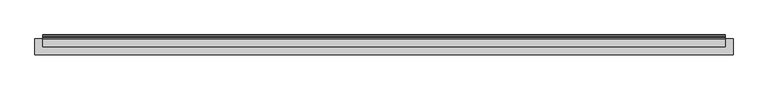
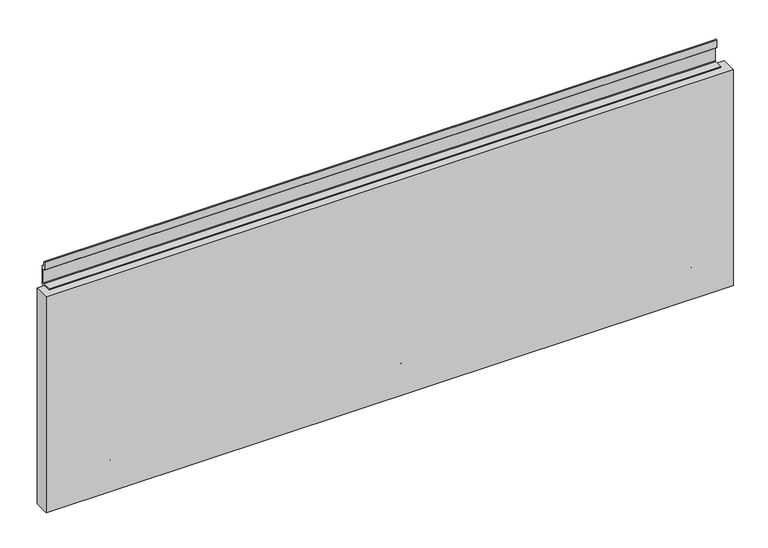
"""IFC4 building model written with IfcOpenShell, lengths in millimetres: furniture geometry, Geiger_GeigerOneCasegoods_WallTileAcceptsTileAboveFabric : Fabric 45Wx 1.25Dx 15H."""

from ifc_helpers import new_model, si_unit, point, frame, frame_2d, origin, origin_with_axes, place, context, project, spatial, polyline, circle_curve, trimmed, segment, composite_curve, outline, extrude, source, transform, mapped, element, save


def furniture_c91bc20d(model_context):
    return source(origin(), model_context, "Body", "SweptSolid", [
        extrude(outline(composite_curve([segment(polyline([(-3.5052, 46.3366), (-2.6924, 45.5238), (-0.8128, 45.5238), (0.0, 44.7364), (0.0, 31.3197095)]), True, "CONTINUOUS"), segment(trimmed(circle_curve(frame_2d((-0.7973236, 31.3197095)), 0.7973236), [point((0.0, 31.3197095))], [point((-1.3611166, 30.7559166))], False, "CARTESIAN"), True, "CONTINUOUS"), segment(polyline([(-1.3611166, 30.7559166), (-2.8956, 32.2904), (-2.8956, 39.2246), (-3.7084, 40.012), (-5.6134, 40.012), (-6.4008, 40.8248), (-6.4008, 72.524), (-5.1054, 72.524), (-3.5052, 70.9238), (-3.5052, 46.3366)]), True, "CONTINUOUS")], self_intersect=False)), frame((50.0016, 0.0, 0.0), z_axis=(1.0, 0.0, 0.0), x_axis=(0.0, 1.0, 0.0)), (0.0, 0.0, 1.0), 75.9968),
        extrude(outline(composite_curve([segment(polyline([(-3.5052, 46.3366), (-2.6924, 45.5238), (-0.8128, 45.5238), (0.0, 44.7364), (0.0, 31.3197095)]), True, "CONTINUOUS"), segment(trimmed(circle_curve(frame_2d((-0.7973236, 31.3197095)), 0.7973236), [point((0.0, 31.3197095))], [point((-1.3611166, 30.7559166))], False, "CARTESIAN"), True, "CONTINUOUS"), segment(polyline([(-1.3611166, 30.7559166), (-2.8956, 32.2904), (-2.8956, 39.2246), (-3.7084, 40.012), (-5.6134, 40.012), (-6.4008, 40.8248), (-6.4008, 72.524), (-5.1054, 72.524), (-3.5052, 70.9238), (-3.5052, 46.3366)]), True, "CONTINUOUS")], self_intersect=False)), frame((533.5016, 0.0, 0.0), z_axis=(1.0, 0.0, 0.0), x_axis=(0.0, 1.0, 0.0)), (0.0, 0.0, 1.0), 75.9968),
        extrude(outline(composite_curve([segment(polyline([(-3.5052, 46.3366), (-2.6924, 45.5238), (-0.8128, 45.5238), (0.0, 44.7364), (0.0, 31.3197095)]), True, "CONTINUOUS"), segment(trimmed(circle_curve(frame_2d((-0.7973236, 31.3197095)), 0.7973236), [point((0.0, 31.3197095))], [point((-1.3611166, 30.7559166))], False, "CARTESIAN"), True, "CONTINUOUS"), segment(polyline([(-1.3611166, 30.7559166), (-2.8956, 32.2904), (-2.8956, 39.2246), (-3.7084, 40.012), (-5.6134, 40.012), (-6.4008, 40.8248), (-6.4008, 72.524), (-5.1054, 72.524), (-3.5052, 70.9238), (-3.5052, 46.3366)]), True, "CONTINUOUS")], self_intersect=False)), frame((533.5016, 0.0, 0.0), z_axis=(1.0, 0.0, 0.0), x_axis=(0.0, 1.0, 0.0)), (0.0, 0.0, 1.0), 75.9968),
        extrude(outline(polyline([(1143.0, -6.4008), (1143.0, -32.4008), (0.0, -32.4008), (0.0, -6.4008), (1143.0, -6.4008)])), origin_with_axes(), (0.0, 0.0, 1.0), 380.0),
        extrude(outline(composite_curve([segment(polyline([(-3.5052, 46.3366), (-2.6924, 45.5238), (-0.8128, 45.5238), (0.0, 44.7364), (0.0, 31.3197095)]), True, "CONTINUOUS"), segment(trimmed(circle_curve(frame_2d((-0.7973236, 31.3197095)), 0.7973236), [point((0.0, 31.3197095))], [point((-1.3611166, 30.7559166))], False, "CARTESIAN"), True, "CONTINUOUS"), segment(polyline([(-1.3611166, 30.7559166), (-2.8956, 32.2904), (-2.8956, 39.2246), (-3.7084, 40.012), (-5.6134, 40.012), (-6.4008, 40.8248), (-6.4008, 72.524), (-5.1054, 72.524), (-3.5052, 70.9238), (-3.5052, 46.3366)]), True, "CONTINUOUS")], self_intersect=False)), frame((1017.0, 0.0, 0.0), z_axis=(1.0, 0.0, 0.0), x_axis=(0.0, 1.0, 0.0)), (0.0, 0.0, 1.0), 76.0),
        extrude(outline(composite_curve([segment(polyline([(-3.5052, 420.2336), (-3.5052, 413.2994), (-2.7178, 412.512), (-0.8128, 412.512), (0.0, 411.6992), (0.0, 378.3998), (-2.6924, 378.3998), (-3.5052, 377.6124), (-3.5052, 363.8964), (-2.6924, 363.109), (0.0, 363.109), (0.0, 360.188), (-5.6134, 360.188), (-6.4008, 361.0008), (-6.4008, 380.0), (-18.9992, 380.0), (-18.9992, 381.6002), (-3.7084, 381.6002), (-2.8956, 382.3876), (-2.8956, 406.2128), (-3.7084, 407.0002), (-5.6134, 407.0002), (-6.4008, 407.813), (-6.4008, 421.2057925)]), True, "CONTINUOUS"), segment(trimmed(circle_curve(frame_2d((-5.6040985, 421.2057925)), 0.7967015), [point((-6.4008, 421.2057925))], [point((-5.0407455, 421.7691455))], False, "CARTESIAN"), True, "CONTINUOUS"), segment(polyline([(-5.0407455, 421.7691455), (-3.5052, 420.2336)]), True, "CONTINUOUS")], self_intersect=False)), frame((12.5, 0.0, 0.0), z_axis=(1.0, 0.0, 0.0), x_axis=(0.0, 1.0, 0.0)), (0.0, 0.0, 1.0), 1118.0),
    ])


if __name__ == "__main__":
    model = new_model("IFC4")
    model_context = context("Model", 3, world=origin())
    ifc_project = project(units=[si_unit("LENGTHUNIT", "METRE", prefix="MILLI")], contexts=[model_context])
    site = spatial("IfcSite", under=ifc_project)
    building = spatial("IfcBuilding", under=site)
    placement = place(None, origin())
    furniture_shape = furniture_c91bc20d(model_context)
    element("IfcFurniture", 1, ObjectType="Geiger_GeigerOneCasegoods_WallTileAcceptsTileAboveFabric : Fabric 45Wx 1.25Dx 15H", at=placement, inside=building, context=model_context, shape_type="MappedRepresentation", body=[
        mapped(furniture_shape, transform((0.0, 0.0, 0.0), x_axis=(1.0, 0.0, 0.0), y_axis=(0.0, 1.0, 0.0), z_axis=(0.0, 0.0, 1.0))),
    ])
    save(model, "model.ifc")
